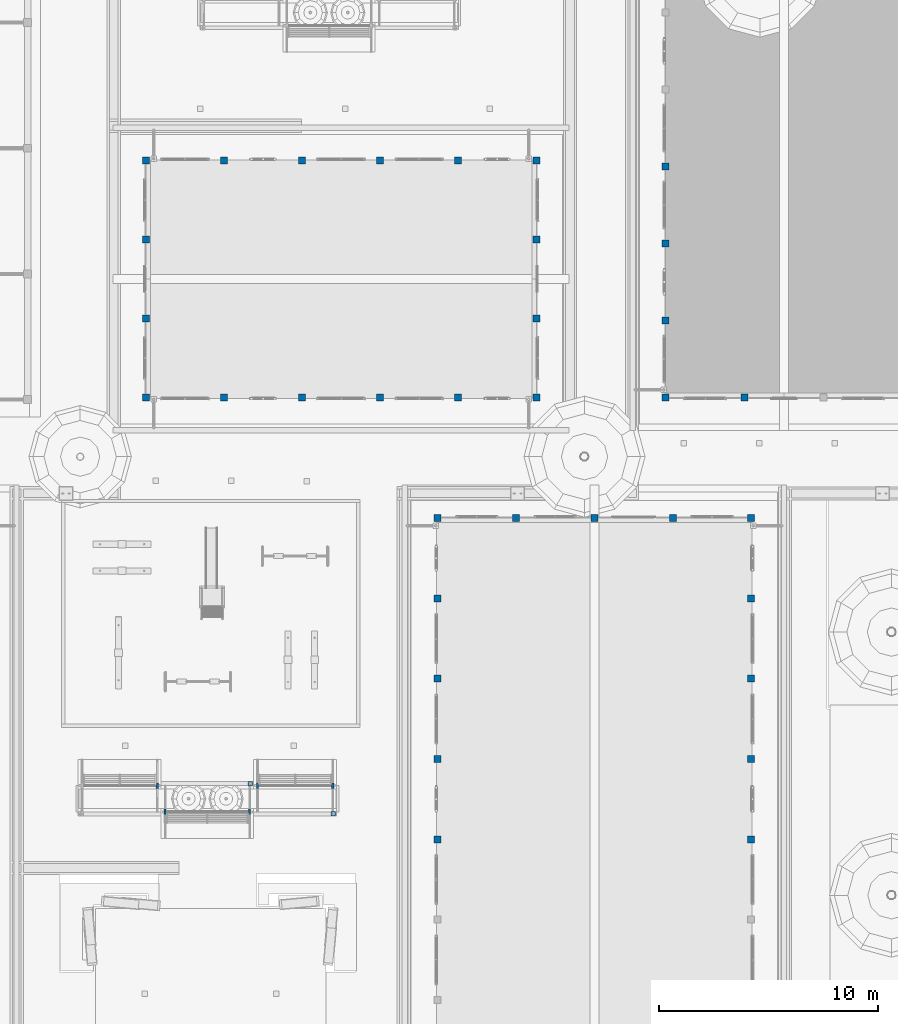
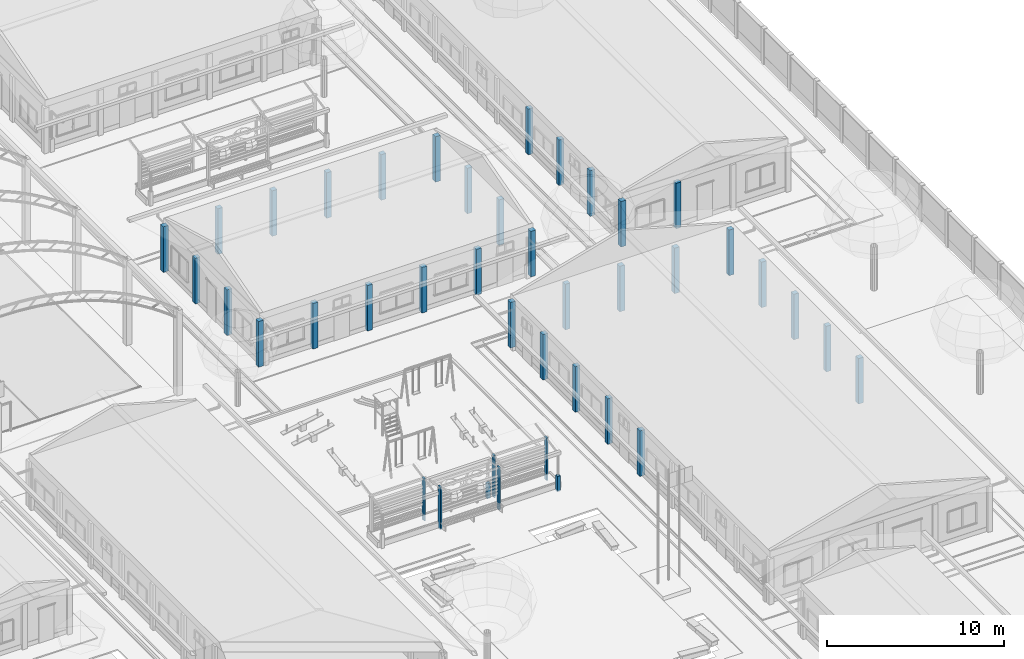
# One storey, part 8 of 177: 48 columns.
"""IFC4 building model written with IfcOpenShell, lengths in metres."""

from ifc_helpers import new_model, si_unit, origin, origin_with_axes, place, context, subcontext, project, spatial, triangles, element, save


model = new_model("IFC4")

# Units and contexts
model_context = context("Model", 3, precision=1e-05, world=origin_with_axes())
body_context = subcontext(model_context, "Body", "Model", "MODEL_VIEW")
ifc_project = project(units=[si_unit("LENGTHUNIT", "METRE"), si_unit("AREAUNIT", "SQUARE_METRE"), si_unit("VOLUMEUNIT", "CUBIC_METRE"), si_unit("PLANEANGLEUNIT", "RADIAN")], contexts=[model_context])

# Site, building, storey
site_placement = place(None, origin_with_axes())
site = spatial("IfcSite", under=ifc_project, at=site_placement, Name="Predio Los Mangos - Morales, San Martín", CompositionType="ELEMENT")
building_placement = place(site_placement, origin())
building = spatial("IfcBuilding", under=site, at=building_placement, Name="Hogar de Refugio Temporal", CompositionType="ELEMENT")
storey_placement = place(building_placement, origin())
storey = spatial("IfcBuildingStorey", under=building, at=storey_placement, Name="NIVEL 1 (NPT +0.00)", CompositionType="ELEMENT", Elevation=0.0)

# Columns
column_1_placement = place(storey_placement, origin())
element("IfcColumn", 1, at=column_1_placement, inside=storey, Name="E-05_col", ObjectType="Columna", PredefinedType="COLUMN", context=body_context, shape_type="Tessellation", body=[
    triangles([(45.14, 87.04, 0.15), (45.46, 87.04, 0.15), (45.46, 87.36, 0.15), (45.14, 87.36, 0.15), (45.14, 87.04, 3.3), (45.46, 87.04, 3.3), (45.46, 87.36, 3.3), (45.14, 87.36, 3.3)], [[1, 4, 3], [1, 3, 2], [5, 6, 7], [5, 7, 8], [1, 2, 6], [1, 6, 5], [2, 3, 7], [2, 7, 6], [3, 4, 8], [3, 8, 7], [4, 1, 5], [4, 5, 8]]),
])
column_2_placement = place(storey_placement, origin())
element("IfcColumn", 2, at=column_2_placement, inside=storey, Name="E-05_col", ObjectType="Columna", PredefinedType="COLUMN", context=body_context, shape_type="Tessellation", body=[
    triangles([(48.715, 87.04, 0.15), (49.035, 87.04, 0.15), (49.035, 87.36, 0.15), (48.715, 87.36, 0.15), (48.715, 87.04, 3.3), (49.035, 87.04, 3.3), (49.035, 87.36, 3.3), (48.715, 87.36, 3.3)], [[1, 4, 3], [1, 3, 2], [5, 6, 7], [5, 7, 8], [1, 2, 6], [1, 6, 5], [2, 3, 7], [2, 7, 6], [3, 4, 8], [3, 8, 7], [4, 1, 5], [4, 5, 8]]),
])
column_3_placement = place(storey_placement, origin())
element("IfcColumn", 3, at=column_3_placement, inside=storey, Name="E-05_col", ObjectType="Columna", PredefinedType="COLUMN", context=body_context, shape_type="Tessellation", body=[
    triangles([(52.29, 87.04, 0.15), (52.61, 87.04, 0.15), (52.61, 87.36, 0.15), (52.29, 87.36, 0.15), (52.29, 87.04, 3.3), (52.61, 87.04, 3.3), (52.61, 87.36, 3.3), (52.29, 87.36, 3.3)], [[1, 4, 3], [1, 3, 2], [5, 6, 7], [5, 7, 8], [1, 2, 6], [1, 6, 5], [2, 3, 7], [2, 7, 6], [3, 4, 8], [3, 8, 7], [4, 1, 5], [4, 5, 8]]),
])
column_4_placement = place(storey_placement, origin())
element("IfcColumn", 4, at=column_4_placement, inside=storey, Name="E-05_col", ObjectType="Columna", PredefinedType="COLUMN", context=body_context, shape_type="Tessellation", body=[
    triangles([(55.865, 87.04, 0.15), (56.185, 87.04, 0.15), (56.185, 87.36, 0.15), (55.865, 87.36, 0.15), (55.865, 87.04, 3.3), (56.185, 87.04, 3.3), (56.185, 87.36, 3.3), (55.865, 87.36, 3.3)], [[1, 4, 3], [1, 3, 2], [5, 6, 7], [5, 7, 8], [1, 2, 6], [1, 6, 5], [2, 3, 7], [2, 7, 6], [3, 4, 8], [3, 8, 7], [4, 1, 5], [4, 5, 8]]),
])
column_5_placement = place(storey_placement, origin())
element("IfcColumn", 5, at=column_5_placement, inside=storey, Name="E-05_col", ObjectType="Columna", PredefinedType="COLUMN", context=body_context, shape_type="Tessellation", body=[
    triangles([(59.44, 87.04, 0.15), (59.76, 87.04, 0.15), (59.76, 87.36, 0.15), (59.44, 87.36, 0.15), (59.44, 87.04, 3.3), (59.76, 87.04, 3.3), (59.76, 87.36, 3.3), (59.44, 87.36, 3.3)], [[1, 4, 3], [1, 3, 2], [5, 6, 7], [5, 7, 8], [1, 2, 6], [1, 6, 5], [2, 3, 7], [2, 7, 6], [3, 4, 8], [3, 8, 7], [4, 1, 5], [4, 5, 8]]),
])
column_6_placement = place(storey_placement, origin())
element("IfcColumn", 6, at=column_6_placement, inside=storey, Name="E-05_col", ObjectType="Columna", PredefinedType="COLUMN", context=body_context, shape_type="Tessellation", body=[
    triangles([(45.14, 72.39, 0.15), (45.46, 72.39, 0.15), (45.46, 72.71, 0.15), (45.14, 72.71, 0.15), (45.14, 72.39, 3.3), (45.46, 72.39, 3.3), (45.46, 72.71, 3.3), (45.14, 72.71, 3.3)], [[1, 4, 3], [1, 3, 2], [5, 6, 7], [5, 7, 8], [1, 2, 6], [1, 6, 5], [2, 3, 7], [2, 7, 6], [3, 4, 8], [3, 8, 7], [4, 1, 5], [4, 5, 8]]),
])
column_7_placement = place(storey_placement, origin())
element("IfcColumn", 7, at=column_7_placement, inside=storey, Name="E-05_col", ObjectType="Columna", PredefinedType="COLUMN", context=body_context, shape_type="Tessellation", body=[
    triangles([(45.14, 76.0525, 0.15), (45.46, 76.0525, 0.15), (45.46, 76.3725, 0.15), (45.14, 76.3725, 0.15), (45.14, 76.0525, 3.3), (45.46, 76.0525, 3.3), (45.46, 76.3725, 3.3), (45.14, 76.3725, 3.3)], [[1, 4, 3], [1, 3, 2], [5, 6, 7], [5, 7, 8], [1, 2, 6], [1, 6, 5], [2, 3, 7], [2, 7, 6], [3, 4, 8], [3, 8, 7], [4, 1, 5], [4, 5, 8]]),
])
column_8_placement = place(storey_placement, origin())
element("IfcColumn", 8, at=column_8_placement, inside=storey, Name="E-05_col", ObjectType="Columna", PredefinedType="COLUMN", context=body_context, shape_type="Tessellation", body=[
    triangles([(45.14, 79.715, 0.15), (45.46, 79.715, 0.15), (45.46, 80.035, 0.15), (45.14, 80.035, 0.15), (45.14, 79.715, 3.3), (45.46, 79.715, 3.3), (45.46, 80.035, 3.3), (45.14, 80.035, 3.3)], [[1, 4, 3], [1, 3, 2], [5, 6, 7], [5, 7, 8], [1, 2, 6], [1, 6, 5], [2, 3, 7], [2, 7, 6], [3, 4, 8], [3, 8, 7], [4, 1, 5], [4, 5, 8]]),
])
column_9_placement = place(storey_placement, origin())
element("IfcColumn", 9, at=column_9_placement, inside=storey, Name="E-05_col", ObjectType="Columna", PredefinedType="COLUMN", context=body_context, shape_type="Tessellation", body=[
    triangles([(45.14, 83.3775, 0.15), (45.46, 83.3775, 0.15), (45.46, 83.6975, 0.15), (45.14, 83.6975, 0.15), (45.14, 83.3775, 3.3), (45.46, 83.3775, 3.3), (45.46, 83.6975, 3.3), (45.14, 83.6975, 3.3)], [[1, 4, 3], [1, 3, 2], [5, 6, 7], [5, 7, 8], [1, 2, 6], [1, 6, 5], [2, 3, 7], [2, 7, 6], [3, 4, 8], [3, 8, 7], [4, 1, 5], [4, 5, 8]]),
])
column_10_placement = place(storey_placement, origin())
element("IfcColumn", 10, at=column_10_placement, inside=storey, Name="E-05_col", ObjectType="Columna", PredefinedType="COLUMN", context=body_context, shape_type="Tessellation", body=[
    triangles([(45.14, 87.04, 0.15), (45.46, 87.04, 0.15), (45.46, 87.36, 0.15), (45.14, 87.36, 0.15), (45.14, 87.04, 3.3), (45.46, 87.04, 3.3), (45.46, 87.36, 3.3), (45.14, 87.36, 3.3)], [[1, 4, 3], [1, 3, 2], [5, 6, 7], [5, 7, 8], [1, 2, 6], [1, 6, 5], [2, 3, 7], [2, 7, 6], [3, 4, 8], [3, 8, 7], [4, 1, 5], [4, 5, 8]]),
])
column_11_placement = place(storey_placement, origin())
element("IfcColumn", 11, at=column_11_placement, inside=storey, Name="E-05_col", ObjectType="Columna", PredefinedType="COLUMN", context=body_context, shape_type="Tessellation", body=[
    triangles([(59.44, 72.39, 0.15), (59.76, 72.39, 0.15), (59.76, 72.71, 0.15), (59.44, 72.71, 0.15), (59.44, 72.39, 3.3), (59.76, 72.39, 3.3), (59.76, 72.71, 3.3), (59.44, 72.71, 3.3)], [[1, 4, 3], [1, 3, 2], [5, 6, 7], [5, 7, 8], [1, 2, 6], [1, 6, 5], [2, 3, 7], [2, 7, 6], [3, 4, 8], [3, 8, 7], [4, 1, 5], [4, 5, 8]]),
])
column_12_placement = place(storey_placement, origin())
element("IfcColumn", 12, at=column_12_placement, inside=storey, Name="E-05_col", ObjectType="Columna", PredefinedType="COLUMN", context=body_context, shape_type="Tessellation", body=[
    triangles([(59.44, 76.0525, 0.15), (59.76, 76.0525, 0.15), (59.76, 76.3725, 0.15), (59.44, 76.3725, 0.15), (59.44, 76.0525, 3.3), (59.76, 76.0525, 3.3), (59.76, 76.3725, 3.3), (59.44, 76.3725, 3.3)], [[1, 4, 3], [1, 3, 2], [5, 6, 7], [5, 7, 8], [1, 2, 6], [1, 6, 5], [2, 3, 7], [2, 7, 6], [3, 4, 8], [3, 8, 7], [4, 1, 5], [4, 5, 8]]),
])
column_13_placement = place(storey_placement, origin())
element("IfcColumn", 13, at=column_13_placement, inside=storey, Name="E-05_col", ObjectType="Columna", PredefinedType="COLUMN", context=body_context, shape_type="Tessellation", body=[
    triangles([(59.44, 79.715, 0.15), (59.76, 79.715, 0.15), (59.76, 80.035, 0.15), (59.44, 80.035, 0.15), (59.44, 79.715, 3.3), (59.76, 79.715, 3.3), (59.76, 80.035, 3.3), (59.44, 80.035, 3.3)], [[1, 4, 3], [1, 3, 2], [5, 6, 7], [5, 7, 8], [1, 2, 6], [1, 6, 5], [2, 3, 7], [2, 7, 6], [3, 4, 8], [3, 8, 7], [4, 1, 5], [4, 5, 8]]),
])
column_14_placement = place(storey_placement, origin())
element("IfcColumn", 14, at=column_14_placement, inside=storey, Name="E-05_col", ObjectType="Columna", PredefinedType="COLUMN", context=body_context, shape_type="Tessellation", body=[
    triangles([(59.44, 83.3775, 0.15), (59.76, 83.3775, 0.15), (59.76, 83.6975, 0.15), (59.44, 83.6975, 0.15), (59.44, 83.3775, 3.3), (59.76, 83.3775, 3.3), (59.76, 83.6975, 3.3), (59.44, 83.6975, 3.3)], [[1, 4, 3], [1, 3, 2], [5, 6, 7], [5, 7, 8], [1, 2, 6], [1, 6, 5], [2, 3, 7], [2, 7, 6], [3, 4, 8], [3, 8, 7], [4, 1, 5], [4, 5, 8]]),
])
column_15_placement = place(storey_placement, origin())
element("IfcColumn", 15, at=column_15_placement, inside=storey, Name="E-05_col", ObjectType="Columna", PredefinedType="COLUMN", context=body_context, shape_type="Tessellation", body=[
    triangles([(59.44, 87.04, 0.15), (59.76, 87.04, 0.15), (59.76, 87.36, 0.15), (59.44, 87.36, 0.15), (59.44, 87.04, 3.3), (59.76, 87.04, 3.3), (59.76, 87.36, 3.3), (59.44, 87.36, 3.3)], [[1, 4, 3], [1, 3, 2], [5, 6, 7], [5, 7, 8], [1, 2, 6], [1, 6, 5], [2, 3, 7], [2, 7, 6], [3, 4, 8], [3, 8, 7], [4, 1, 5], [4, 5, 8]]),
])
column_16_placement = place(storey_placement, origin())
element("IfcColumn", 16, at=column_16_placement, inside=storey, Name="E-06_col", ObjectType="Columna", PredefinedType="COLUMN", context=body_context, shape_type="Tessellation", body=[
    triangles([(31.84, 92.54, 0.15), (32.16, 92.54, 0.15), (32.16, 92.86, 0.15), (31.84, 92.86, 0.15), (31.84, 92.54, 3.3), (32.16, 92.54, 3.3), (32.16, 92.86, 3.3), (31.84, 92.86, 3.3)], [[1, 4, 3], [1, 3, 2], [5, 6, 7], [5, 7, 8], [1, 2, 6], [1, 6, 5], [2, 3, 7], [2, 7, 6], [3, 4, 8], [3, 8, 7], [4, 1, 5], [4, 5, 8]]),
])
column_17_placement = place(storey_placement, origin())
element("IfcColumn", 17, at=column_17_placement, inside=storey, Name="E-06_col", ObjectType="Columna", PredefinedType="COLUMN", context=body_context, shape_type="Tessellation", body=[
    triangles([(35.4, 92.54, 0.15), (35.72, 92.54, 0.15), (35.72, 92.86, 0.15), (35.4, 92.86, 0.15), (35.4, 92.54, 3.3), (35.72, 92.54, 3.3), (35.72, 92.86, 3.3), (35.4, 92.86, 3.3)], [[1, 4, 3], [1, 3, 2], [5, 6, 7], [5, 7, 8], [1, 2, 6], [1, 6, 5], [2, 3, 7], [2, 7, 6], [3, 4, 8], [3, 8, 7], [4, 1, 5], [4, 5, 8]]),
])
column_18_placement = place(storey_placement, origin())
element("IfcColumn", 18, at=column_18_placement, inside=storey, Name="E-06_col", ObjectType="Columna", PredefinedType="COLUMN", context=body_context, shape_type="Tessellation", body=[
    triangles([(38.96, 92.54, 0.15), (39.28, 92.54, 0.15), (39.28, 92.86, 0.15), (38.96, 92.86, 0.15), (38.96, 92.54, 3.3), (39.28, 92.54, 3.3), (39.28, 92.86, 3.3), (38.96, 92.86, 3.3)], [[1, 4, 3], [1, 3, 2], [5, 6, 7], [5, 7, 8], [1, 2, 6], [1, 6, 5], [2, 3, 7], [2, 7, 6], [3, 4, 8], [3, 8, 7], [4, 1, 5], [4, 5, 8]]),
])
column_19_placement = place(storey_placement, origin())
element("IfcColumn", 19, at=column_19_placement, inside=storey, Name="E-06_col", ObjectType="Columna", PredefinedType="COLUMN", context=body_context, shape_type="Tessellation", body=[
    triangles([(42.52, 92.54, 0.15), (42.84, 92.54, 0.15), (42.84, 92.86, 0.15), (42.52, 92.86, 0.15), (42.52, 92.54, 3.3), (42.84, 92.54, 3.3), (42.84, 92.86, 3.3), (42.52, 92.86, 3.3)], [[1, 4, 3], [1, 3, 2], [5, 6, 7], [5, 7, 8], [1, 2, 6], [1, 6, 5], [2, 3, 7], [2, 7, 6], [3, 4, 8], [3, 8, 7], [4, 1, 5], [4, 5, 8]]),
])
column_20_placement = place(storey_placement, origin())
element("IfcColumn", 20, at=column_20_placement, inside=storey, Name="E-06_col", ObjectType="Columna", PredefinedType="COLUMN", context=body_context, shape_type="Tessellation", body=[
    triangles([(46.08, 92.54, 0.15), (46.4, 92.54, 0.15), (46.4, 92.86, 0.15), (46.08, 92.86, 0.15), (46.08, 92.54, 3.3), (46.4, 92.54, 3.3), (46.4, 92.86, 3.3), (46.08, 92.86, 3.3)], [[1, 4, 3], [1, 3, 2], [5, 6, 7], [5, 7, 8], [1, 2, 6], [1, 6, 5], [2, 3, 7], [2, 7, 6], [3, 4, 8], [3, 8, 7], [4, 1, 5], [4, 5, 8]]),
])
column_21_placement = place(storey_placement, origin())
element("IfcColumn", 21, at=column_21_placement, inside=storey, Name="E-06_col", ObjectType="Columna", PredefinedType="COLUMN", context=body_context, shape_type="Tessellation", body=[
    triangles([(49.64, 92.54, 0.15), (49.96, 92.54, 0.15), (49.96, 92.86, 0.15), (49.64, 92.86, 0.15), (49.64, 92.54, 3.3), (49.96, 92.54, 3.3), (49.96, 92.86, 3.3), (49.64, 92.86, 3.3)], [[1, 4, 3], [1, 3, 2], [5, 6, 7], [5, 7, 8], [1, 2, 6], [1, 6, 5], [2, 3, 7], [2, 7, 6], [3, 4, 8], [3, 8, 7], [4, 1, 5], [4, 5, 8]]),
])
column_22_placement = place(storey_placement, origin())
element("IfcColumn", 22, at=column_22_placement, inside=storey, Name="E-06_col", ObjectType="Columna", PredefinedType="COLUMN", context=body_context, shape_type="Tessellation", body=[
    triangles([(31.84, 103.34, 0.15), (32.16, 103.34, 0.15), (32.16, 103.66, 0.15), (31.84, 103.66, 0.15), (31.84, 103.34, 3.3), (32.16, 103.34, 3.3), (32.16, 103.66, 3.3), (31.84, 103.66, 3.3)], [[1, 4, 3], [1, 3, 2], [5, 6, 7], [5, 7, 8], [1, 2, 6], [1, 6, 5], [2, 3, 7], [2, 7, 6], [3, 4, 8], [3, 8, 7], [4, 1, 5], [4, 5, 8]]),
])
column_23_placement = place(storey_placement, origin())
element("IfcColumn", 23, at=column_23_placement, inside=storey, Name="E-06_col", ObjectType="Columna", PredefinedType="COLUMN", context=body_context, shape_type="Tessellation", body=[
    triangles([(35.4, 103.34, 0.15), (35.72, 103.34, 0.15), (35.72, 103.66, 0.15), (35.4, 103.66, 0.15), (35.4, 103.34, 3.3), (35.72, 103.34, 3.3), (35.72, 103.66, 3.3), (35.4, 103.66, 3.3)], [[1, 4, 3], [1, 3, 2], [5, 6, 7], [5, 7, 8], [1, 2, 6], [1, 6, 5], [2, 3, 7], [2, 7, 6], [3, 4, 8], [3, 8, 7], [4, 1, 5], [4, 5, 8]]),
])
column_24_placement = place(storey_placement, origin())
element("IfcColumn", 24, at=column_24_placement, inside=storey, Name="E-06_col", ObjectType="Columna", PredefinedType="COLUMN", context=body_context, shape_type="Tessellation", body=[
    triangles([(38.96, 103.34, 0.15), (39.28, 103.34, 0.15), (39.28, 103.66, 0.15), (38.96, 103.66, 0.15), (38.96, 103.34, 3.3), (39.28, 103.34, 3.3), (39.28, 103.66, 3.3), (38.96, 103.66, 3.3)], [[1, 4, 3], [1, 3, 2], [5, 6, 7], [5, 7, 8], [1, 2, 6], [1, 6, 5], [2, 3, 7], [2, 7, 6], [3, 4, 8], [3, 8, 7], [4, 1, 5], [4, 5, 8]]),
])
column_25_placement = place(storey_placement, origin())
element("IfcColumn", 25, at=column_25_placement, inside=storey, Name="E-06_col", ObjectType="Columna", PredefinedType="COLUMN", context=body_context, shape_type="Tessellation", body=[
    triangles([(42.52, 103.34, 0.15), (42.84, 103.34, 0.15), (42.84, 103.66, 0.15), (42.52, 103.66, 0.15), (42.52, 103.34, 3.3), (42.84, 103.34, 3.3), (42.84, 103.66, 3.3), (42.52, 103.66, 3.3)], [[1, 4, 3], [1, 3, 2], [5, 6, 7], [5, 7, 8], [1, 2, 6], [1, 6, 5], [2, 3, 7], [2, 7, 6], [3, 4, 8], [3, 8, 7], [4, 1, 5], [4, 5, 8]]),
])
column_26_placement = place(storey_placement, origin())
element("IfcColumn", 26, at=column_26_placement, inside=storey, Name="E-06_col", ObjectType="Columna", PredefinedType="COLUMN", context=body_context, shape_type="Tessellation", body=[
    triangles([(46.08, 103.34, 0.15), (46.4, 103.34, 0.15), (46.4, 103.66, 0.15), (46.08, 103.66, 0.15), (46.08, 103.34, 3.3), (46.4, 103.34, 3.3), (46.4, 103.66, 3.3), (46.08, 103.66, 3.3)], [[1, 4, 3], [1, 3, 2], [5, 6, 7], [5, 7, 8], [1, 2, 6], [1, 6, 5], [2, 3, 7], [2, 7, 6], [3, 4, 8], [3, 8, 7], [4, 1, 5], [4, 5, 8]]),
])
column_27_placement = place(storey_placement, origin())
element("IfcColumn", 27, at=column_27_placement, inside=storey, Name="E-06_col", ObjectType="Columna", PredefinedType="COLUMN", context=body_context, shape_type="Tessellation", body=[
    triangles([(49.64, 103.34, 0.15), (49.96, 103.34, 0.15), (49.96, 103.66, 0.15), (49.64, 103.66, 0.15), (49.64, 103.34, 3.3), (49.96, 103.34, 3.3), (49.96, 103.66, 3.3), (49.64, 103.66, 3.3)], [[1, 4, 3], [1, 3, 2], [5, 6, 7], [5, 7, 8], [1, 2, 6], [1, 6, 5], [2, 3, 7], [2, 7, 6], [3, 4, 8], [3, 8, 7], [4, 1, 5], [4, 5, 8]]),
])
column_28_placement = place(storey_placement, origin())
element("IfcColumn", 28, at=column_28_placement, inside=storey, Name="E-06_col", ObjectType="Columna", PredefinedType="COLUMN", context=body_context, shape_type="Tessellation", body=[
    triangles([(31.84, 92.54, 0.15), (32.16, 92.54, 0.15), (32.16, 92.86, 0.15), (31.84, 92.86, 0.15), (31.84, 92.54, 3.3), (32.16, 92.54, 3.3), (32.16, 92.86, 3.3), (31.84, 92.86, 3.3)], [[1, 4, 3], [1, 3, 2], [5, 6, 7], [5, 7, 8], [1, 2, 6], [1, 6, 5], [2, 3, 7], [2, 7, 6], [3, 4, 8], [3, 8, 7], [4, 1, 5], [4, 5, 8]]),
])
column_29_placement = place(storey_placement, origin())
element("IfcColumn", 29, at=column_29_placement, inside=storey, Name="E-06_col", ObjectType="Columna", PredefinedType="COLUMN", context=body_context, shape_type="Tessellation", body=[
    triangles([(31.84, 96.14, 0.15), (32.16, 96.14, 0.15), (32.16, 96.46, 0.15), (31.84, 96.46, 0.15), (31.84, 96.14, 3.3), (32.16, 96.14, 3.3), (32.16, 96.46, 3.3), (31.84, 96.46, 3.3)], [[1, 4, 3], [1, 3, 2], [5, 6, 7], [5, 7, 8], [1, 2, 6], [1, 6, 5], [2, 3, 7], [2, 7, 6], [3, 4, 8], [3, 8, 7], [4, 1, 5], [4, 5, 8]]),
])
column_30_placement = place(storey_placement, origin())
element("IfcColumn", 30, at=column_30_placement, inside=storey, Name="E-06_col", ObjectType="Columna", PredefinedType="COLUMN", context=body_context, shape_type="Tessellation", body=[
    triangles([(31.84, 99.74, 0.15), (32.16, 99.74, 0.15), (32.16, 100.06, 0.15), (31.84, 100.06, 0.15), (31.84, 99.74, 3.3), (32.16, 99.74, 3.3), (32.16, 100.06, 3.3), (31.84, 100.06, 3.3)], [[1, 4, 3], [1, 3, 2], [5, 6, 7], [5, 7, 8], [1, 2, 6], [1, 6, 5], [2, 3, 7], [2, 7, 6], [3, 4, 8], [3, 8, 7], [4, 1, 5], [4, 5, 8]]),
])
column_31_placement = place(storey_placement, origin())
element("IfcColumn", 31, at=column_31_placement, inside=storey, Name="E-06_col", ObjectType="Columna", PredefinedType="COLUMN", context=body_context, shape_type="Tessellation", body=[
    triangles([(31.84, 103.34, 0.15), (32.16, 103.34, 0.15), (32.16, 103.66, 0.15), (31.84, 103.66, 0.15), (31.84, 103.34, 3.3), (32.16, 103.34, 3.3), (32.16, 103.66, 3.3), (31.84, 103.66, 3.3)], [[1, 4, 3], [1, 3, 2], [5, 6, 7], [5, 7, 8], [1, 2, 6], [1, 6, 5], [2, 3, 7], [2, 7, 6], [3, 4, 8], [3, 8, 7], [4, 1, 5], [4, 5, 8]]),
])
column_32_placement = place(storey_placement, origin())
element("IfcColumn", 32, at=column_32_placement, inside=storey, Name="E-06_col", ObjectType="Columna", PredefinedType="COLUMN", context=body_context, shape_type="Tessellation", body=[
    triangles([(49.64, 92.54, 0.15), (49.96, 92.54, 0.15), (49.96, 92.86, 0.15), (49.64, 92.86, 0.15), (49.64, 92.54, 3.3), (49.96, 92.54, 3.3), (49.96, 92.86, 3.3), (49.64, 92.86, 3.3)], [[1, 4, 3], [1, 3, 2], [5, 6, 7], [5, 7, 8], [1, 2, 6], [1, 6, 5], [2, 3, 7], [2, 7, 6], [3, 4, 8], [3, 8, 7], [4, 1, 5], [4, 5, 8]]),
])
column_33_placement = place(storey_placement, origin())
element("IfcColumn", 33, at=column_33_placement, inside=storey, Name="E-06_col", ObjectType="Columna", PredefinedType="COLUMN", context=body_context, shape_type="Tessellation", body=[
    triangles([(49.64, 96.14, 0.15), (49.96, 96.14, 0.15), (49.96, 96.46, 0.15), (49.64, 96.46, 0.15), (49.64, 96.14, 3.3), (49.96, 96.14, 3.3), (49.96, 96.46, 3.3), (49.64, 96.46, 3.3)], [[1, 4, 3], [1, 3, 2], [5, 6, 7], [5, 7, 8], [1, 2, 6], [1, 6, 5], [2, 3, 7], [2, 7, 6], [3, 4, 8], [3, 8, 7], [4, 1, 5], [4, 5, 8]]),
])
column_34_placement = place(storey_placement, origin())
element("IfcColumn", 34, at=column_34_placement, inside=storey, Name="E-06_col", ObjectType="Columna", PredefinedType="COLUMN", context=body_context, shape_type="Tessellation", body=[
    triangles([(49.64, 99.74, 0.15), (49.96, 99.74, 0.15), (49.96, 100.06, 0.15), (49.64, 100.06, 0.15), (49.64, 99.74, 3.3), (49.96, 99.74, 3.3), (49.96, 100.06, 3.3), (49.64, 100.06, 3.3)], [[1, 4, 3], [1, 3, 2], [5, 6, 7], [5, 7, 8], [1, 2, 6], [1, 6, 5], [2, 3, 7], [2, 7, 6], [3, 4, 8], [3, 8, 7], [4, 1, 5], [4, 5, 8]]),
])
column_35_placement = place(storey_placement, origin())
element("IfcColumn", 35, at=column_35_placement, inside=storey, Name="E-06_col", ObjectType="Columna", PredefinedType="COLUMN", context=body_context, shape_type="Tessellation", body=[
    triangles([(49.64, 103.34, 0.15), (49.96, 103.34, 0.15), (49.96, 103.66, 0.15), (49.64, 103.66, 0.15), (49.64, 103.34, 3.3), (49.96, 103.34, 3.3), (49.96, 103.66, 3.3), (49.64, 103.66, 3.3)], [[1, 4, 3], [1, 3, 2], [5, 6, 7], [5, 7, 8], [1, 2, 6], [1, 6, 5], [2, 3, 7], [2, 7, 6], [3, 4, 8], [3, 8, 7], [4, 1, 5], [4, 5, 8]]),
])
column_36_placement = place(storey_placement, origin())
element("IfcColumn", 36, at=column_36_placement, inside=storey, Name="E-07_col", ObjectType="Columna", PredefinedType="COLUMN", context=body_context, shape_type="Tessellation", body=[
    triangles([(55.54, 92.54, 0.15), (55.86, 92.54, 0.15), (55.86, 92.86, 0.15), (55.54, 92.86, 0.15), (55.54, 92.54, 3.3), (55.86, 92.54, 3.3), (55.86, 92.86, 3.3), (55.54, 92.86, 3.3)], [[1, 4, 3], [1, 3, 2], [5, 6, 7], [5, 7, 8], [1, 2, 6], [1, 6, 5], [2, 3, 7], [2, 7, 6], [3, 4, 8], [3, 8, 7], [4, 1, 5], [4, 5, 8]]),
])
column_37_placement = place(storey_placement, origin())
element("IfcColumn", 37, at=column_37_placement, inside=storey, Name="E-07_col", ObjectType="Columna", PredefinedType="COLUMN", context=body_context, shape_type="Tessellation", body=[
    triangles([(59.14, 92.54, 0.15), (59.46, 92.54, 0.15), (59.46, 92.86, 0.15), (59.14, 92.86, 0.15), (59.14, 92.54, 3.3), (59.46, 92.54, 3.3), (59.46, 92.86, 3.3), (59.14, 92.86, 3.3)], [[1, 4, 3], [1, 3, 2], [5, 6, 7], [5, 7, 8], [1, 2, 6], [1, 6, 5], [2, 3, 7], [2, 7, 6], [3, 4, 8], [3, 8, 7], [4, 1, 5], [4, 5, 8]]),
])
column_38_placement = place(storey_placement, origin())
element("IfcColumn", 38, at=column_38_placement, inside=storey, Name="E-07_col", ObjectType="Columna", PredefinedType="COLUMN", context=body_context, shape_type="Tessellation", body=[
    triangles([(55.54, 92.54, 0.15), (55.86, 92.54, 0.15), (55.86, 92.86, 0.15), (55.54, 92.86, 0.15), (55.54, 92.54, 3.3), (55.86, 92.54, 3.3), (55.86, 92.86, 3.3), (55.54, 92.86, 3.3)], [[1, 4, 3], [1, 3, 2], [5, 6, 7], [5, 7, 8], [1, 2, 6], [1, 6, 5], [2, 3, 7], [2, 7, 6], [3, 4, 8], [3, 8, 7], [4, 1, 5], [4, 5, 8]]),
])
column_39_placement = place(storey_placement, origin())
element("IfcColumn", 39, at=column_39_placement, inside=storey, Name="E-07_col", ObjectType="Columna", PredefinedType="COLUMN", context=body_context, shape_type="Tessellation", body=[
    triangles([(55.54, 96.05, 0.15), (55.86, 96.05, 0.15), (55.86, 96.37, 0.15), (55.54, 96.37, 0.15), (55.54, 96.05, 3.3), (55.86, 96.05, 3.3), (55.86, 96.37, 3.3), (55.54, 96.37, 3.3)], [[1, 4, 3], [1, 3, 2], [5, 6, 7], [5, 7, 8], [1, 2, 6], [1, 6, 5], [2, 3, 7], [2, 7, 6], [3, 4, 8], [3, 8, 7], [4, 1, 5], [4, 5, 8]]),
])
column_40_placement = place(storey_placement, origin())
element("IfcColumn", 40, at=column_40_placement, inside=storey, Name="E-07_col", ObjectType="Columna", PredefinedType="COLUMN", context=body_context, shape_type="Tessellation", body=[
    triangles([(55.54, 99.56, 0.15), (55.86, 99.56, 0.15), (55.86, 99.88, 0.15), (55.54, 99.88, 0.15), (55.54, 99.56, 3.3), (55.86, 99.56, 3.3), (55.86, 99.88, 3.3), (55.54, 99.88, 3.3)], [[1, 4, 3], [1, 3, 2], [5, 6, 7], [5, 7, 8], [1, 2, 6], [1, 6, 5], [2, 3, 7], [2, 7, 6], [3, 4, 8], [3, 8, 7], [4, 1, 5], [4, 5, 8]]),
])
column_41_placement = place(storey_placement, origin())
element("IfcColumn", 41, at=column_41_placement, inside=storey, Name="E-07_col", ObjectType="Columna", PredefinedType="COLUMN", context=body_context, shape_type="Tessellation", body=[
    triangles([(55.54, 103.07, 0.15), (55.86, 103.07, 0.15), (55.86, 103.39, 0.15), (55.54, 103.39, 0.15), (55.54, 103.07, 3.3), (55.86, 103.07, 3.3), (55.86, 103.39, 3.3), (55.54, 103.39, 3.3)], [[1, 4, 3], [1, 3, 2], [5, 6, 7], [5, 7, 8], [1, 2, 6], [1, 6, 5], [2, 3, 7], [2, 7, 6], [3, 4, 8], [3, 8, 7], [4, 1, 5], [4, 5, 8]]),
])
column_42_placement = place(storey_placement, origin())
element("IfcColumn", 42, at=column_42_placement, inside=storey, Name="oc01_columna", ObjectType="Columna", PredefinedType="COLUMN", context=body_context, shape_type="Tessellation", body=[
    triangles([(40.565, 75.125, 0.0), (40.465, 75.125, 0.0), (40.465, 74.875, 0.0), (40.565, 74.875, 0.0), (40.565, 75.125, 2.93), (40.465, 75.125, 2.93), (40.465, 74.875, 2.93), (40.565, 74.875, 2.93)], [[1, 4, 3], [1, 3, 2], [5, 6, 7], [5, 7, 8], [1, 2, 6], [1, 6, 5], [2, 3, 7], [2, 7, 6], [3, 4, 8], [3, 8, 7], [4, 1, 5], [4, 5, 8]]),
])
column_43_placement = place(storey_placement, origin())
element("IfcColumn", 43, at=column_43_placement, inside=storey, Name="oc01_columna", ObjectType="Columna", PredefinedType="COLUMN", context=body_context, shape_type="Tessellation", body=[
    triangles([(37.135, 75.125, 0.0), (37.035, 75.125, 0.0), (37.035, 74.875, 0.0), (37.135, 74.875, 0.0), (37.135, 75.125, 2.93), (37.035, 75.125, 2.93), (37.035, 74.875, 2.93), (37.135, 74.875, 2.93)], [[1, 4, 3], [1, 3, 2], [5, 6, 7], [5, 7, 8], [1, 2, 6], [1, 6, 5], [2, 3, 7], [2, 7, 6], [3, 4, 8], [3, 8, 7], [4, 1, 5], [4, 5, 8]]),
])
column_44_placement = place(storey_placement, origin())
element("IfcColumn", 44, at=column_44_placement, inside=storey, Name="oc01_falsa_columna", ObjectType="Falsa columna", PredefinedType="COLUMN", context=body_context, shape_type="Tessellation", body=[
    triangles([(40.645, 73.81, 0.0), (40.445, 73.81, 0.0), (40.445, 73.61, 0.0), (40.645, 73.61, 0.0), (40.645, 73.81, 1.05), (40.445, 73.81, 1.05), (40.445, 73.61, 1.05), (40.645, 73.61, 1.05)], [[1, 4, 3], [1, 3, 2], [5, 6, 7], [5, 7, 8], [1, 2, 6], [1, 6, 5], [2, 3, 7], [2, 7, 6], [3, 4, 8], [3, 8, 7], [4, 1, 5], [4, 5, 8]]),
])
column_45_placement = place(storey_placement, origin())
element("IfcColumn", 45, at=column_45_placement, inside=storey, Name="oc01_columna", ObjectType="Columna", PredefinedType="COLUMN", context=body_context, shape_type="Tessellation", body=[
    triangles([(36.775, 73.925, 0.0), (36.675, 73.925, 0.0), (36.675, 73.675, 0.0), (36.775, 73.675, 0.0), (36.775, 73.925, 2.93), (36.675, 73.925, 2.93), (36.675, 73.675, 2.93), (36.775, 73.675, 2.93)], [[1, 4, 3], [1, 3, 2], [5, 6, 7], [5, 7, 8], [1, 2, 6], [1, 6, 5], [2, 3, 7], [2, 7, 6], [3, 4, 8], [3, 8, 7], [4, 1, 5], [4, 5, 8]]),
])
column_46_placement = place(storey_placement, origin())
element("IfcColumn", 46, at=column_46_placement, inside=storey, Name="oc01_columna", ObjectType="Columna", PredefinedType="COLUMN", context=body_context, shape_type="Tessellation", body=[
    triangles([(32.925, 73.925, 0.0), (32.825, 73.925, 0.0), (32.825, 73.675, 0.0), (32.925, 73.675, 0.0), (32.925, 73.925, 2.93), (32.825, 73.925, 2.93), (32.825, 73.675, 2.93), (32.925, 73.675, 2.93)], [[1, 4, 3], [1, 3, 2], [5, 6, 7], [5, 7, 8], [1, 2, 6], [1, 6, 5], [2, 3, 7], [2, 7, 6], [3, 4, 8], [3, 8, 7], [4, 1, 5], [4, 5, 8]]),
])
column_47_placement = place(storey_placement, origin())
element("IfcColumn", 47, at=column_47_placement, inside=storey, Name="oc01_falsa_columna", ObjectType="Falsa columna", PredefinedType="COLUMN", context=body_context, shape_type="Tessellation", body=[
    triangles([(36.855, 75.19, 0.0), (36.655, 75.19, 0.0), (36.655, 74.99, 0.0), (36.855, 74.99, 0.0), (36.855, 75.19, 1.05), (36.655, 75.19, 1.05), (36.655, 74.99, 1.05), (36.855, 74.99, 1.05)], [[1, 4, 3], [1, 3, 2], [5, 6, 7], [5, 7, 8], [1, 2, 6], [1, 6, 5], [2, 3, 7], [2, 7, 6], [3, 4, 8], [3, 8, 7], [4, 1, 5], [4, 5, 8]]),
])
column_48_placement = place(storey_placement, origin())
element("IfcColumn", 48, at=column_48_placement, inside=storey, Name="oc01_columna", ObjectType="Columna", PredefinedType="COLUMN", context=body_context, shape_type="Tessellation", body=[
    triangles([(32.565, 75.125, 0.0), (32.465, 75.125, 0.0), (32.465, 74.875, 0.0), (32.565, 74.875, 0.0), (32.565, 75.125, 2.93), (32.465, 75.125, 2.93), (32.465, 74.875, 2.93), (32.565, 74.875, 2.93)], [[1, 4, 3], [1, 3, 2], [5, 6, 7], [5, 7, 8], [1, 2, 6], [1, 6, 5], [2, 3, 7], [2, 7, 6], [3, 4, 8], [3, 8, 7], [4, 1, 5], [4, 5, 8]]),
])

save(model, "model.ifc")
